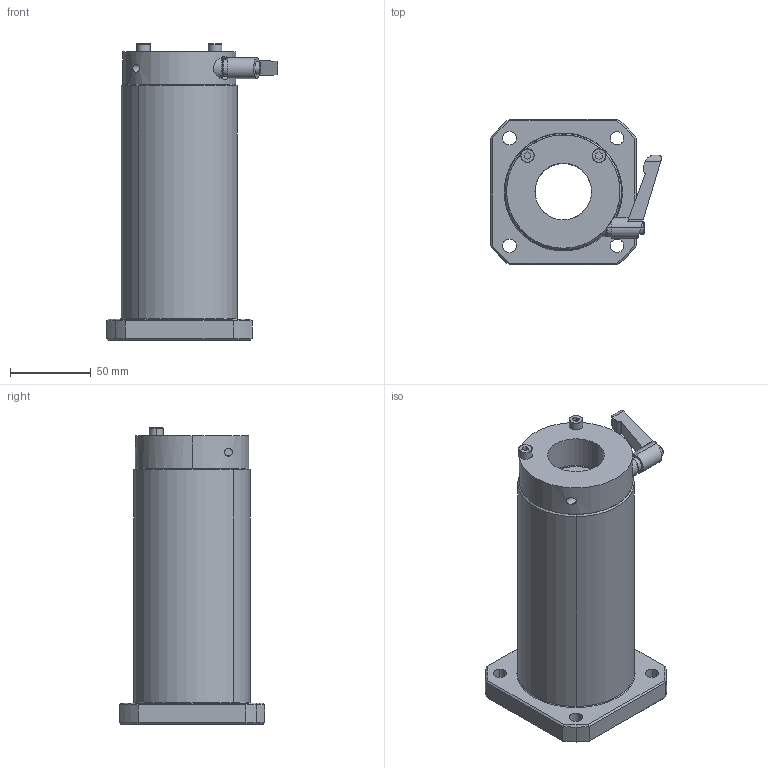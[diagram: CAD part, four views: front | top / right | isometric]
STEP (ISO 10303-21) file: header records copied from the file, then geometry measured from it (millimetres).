
FILE_DESCRIPTION (( 'STEP AP214' ), '1' );
FILE_NAME ('LFWK35MF-CS.STEP', '2023-06-27T02:57:06', ( '' ), ( '' ), 'SwSTEP 2.0', 'SolidWorks 2019', '' );
FILE_SCHEMA (( 'AUTOMOTIVE_DESIGN' ));
Length unit declared in the file: millimetre
Products named in the file (3): “ÁSCK3520SS-S5.5; LFWK35MF-CS; LFWK35MF
Assembly tree (2 placements, depth 2):
  LFWK35MF-CS
    LFWK35MF
    “ÁSCK3520SS-S5.5
Bounding box: 105.7 x 90 x 183 mm (x, y, z)
Volume: 588688.6 mm3; surface area: 91085.7 mm2
Topology: 3 solids, 5 shells, 198 faces, 508 edges, 314 vertices
Faces by surface type: plane 74, cylinder 73, cone 25, bspline 18, torus 8
Entity records: 8626 total; most frequent: CARTESIAN_POINT 1690, DIRECTION 1097, ORIENTED_EDGE 1016, EDGE_CURVE 508, AXIS2_PLACEMENT_3D 453, VERTEX_POINT 314, CIRCLE 268, EDGE_LOOP 232
